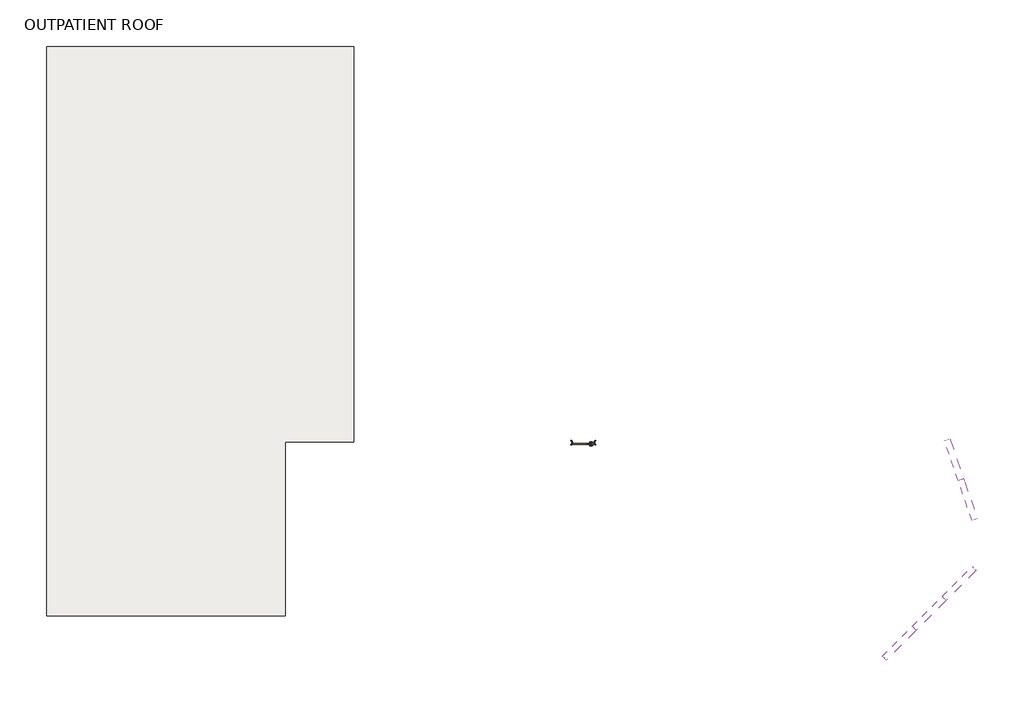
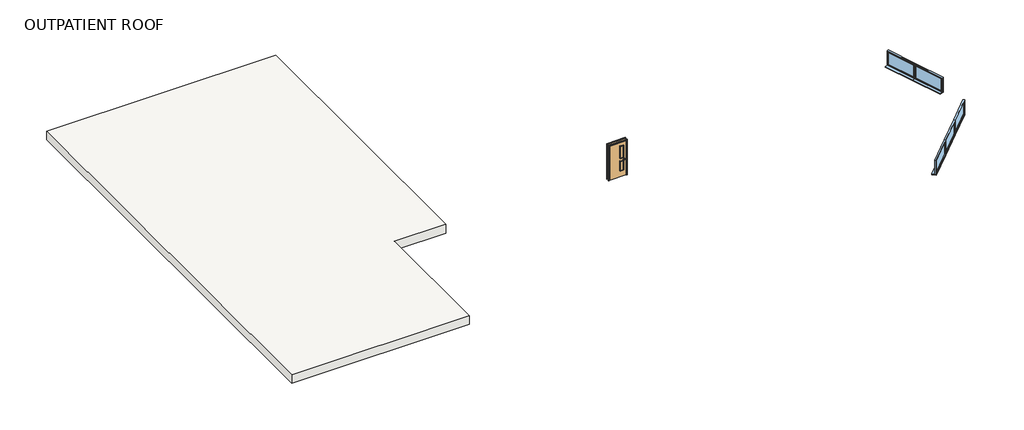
# One storey: 5 windows, 1 door, 1 roof.
"""IFC4 building model written with IfcOpenShell, lengths in millimetres."""

from ifc_helpers import new_model, si_unit, frame, origin, place, context, project, spatial, polyline, outline, extrude, transform, mapped, element, save
from components import doors_intsgl_3_1010x2110mm_4cc0f6b2, windows_concept_plain_sgl_1810x910mm_a9162c4a

model = new_model("IFC4")

# Units and contexts
model_context = context("Model", 3, world=origin())
ifc_project = project(units=[si_unit("LENGTHUNIT", "METRE", prefix="MILLI")], contexts=[model_context])

# Site, building, storey
site = spatial("IfcSite", under=ifc_project)
building = spatial("IfcBuilding", under=site)
storey = spatial("IfcBuildingStorey", under=building, Name="OUTPATIENT ROOF", Elevation=4500.0)

# Door
placement = place(None, origin())
doors_intsgl_3_1010x2110mm_shape = doors_intsgl_3_1010x2110mm_4cc0f6b2(model_context)
element("IfcDoor", 1, ObjectType="Doors_IntSgl_3 : 1010x2110mm", at=placement, inside=storey, context=model_context, shape_type="MappedRepresentation", body=[
    mapped(doors_intsgl_3_1010x2110mm_shape, transform((434827.3206883, -386774.0026386, 4500.0), x_axis=(-1.0, 0.0, 0.0), y_axis=(0.0, -1.0, 0.0), z_axis=(0.0, 0.0, 1.0))),
])

# Roof
element("IfcRoof", 2, ObjectType="Roof_Generic400mm", at=placement, inside=storey, context=model_context, shape_type="SweptSolid", body=[
    extrude(outline(polyline([(411860.3206883, -369815.0026386), (425012.3206883, -369815.0026386), (425012.3206883, -386739.0026386), (422066.3206883, -386739.0026386), (422066.3206883, -394194.0026386), (411860.3206883, -394194.0026386), (411860.3206883, -369815.0026386)])), frame((0.0, 0.0, 4500.0), z_axis=(0.0, 0.0, 1.0), x_axis=(1.0, 0.0, 0.0)), (0.0, 0.0, 1.0), 525.0),
])

# Windows
windows_concept_plain_sgl_1810x910mm_shape = windows_concept_plain_sgl_1810x910mm_a9162c4a(model_context)
element("IfcWindow", 3, ObjectType="Windows_Concept_Plain_Sgl : 1810x910mm", at=placement, inside=storey, context=model_context, shape_type="MappedRepresentation", body=[
    mapped(windows_concept_plain_sgl_1810x910mm_shape, transform((450759.7137274, -387480.6222263, 4500.0), x_axis=(-0.32556815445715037, 0.9455185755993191, 0.0), y_axis=(-0.9455185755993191, -0.32556815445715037, 0.0), z_axis=(0.0, 0.0, 1.0))),
])
element("IfcWindow", 4, ObjectType="Windows_Concept_Plain_Sgl : 1810x910mm", at=placement, inside=storey, context=model_context, shape_type="MappedRepresentation", body=[
    mapped(windows_concept_plain_sgl_1810x910mm_shape, transform((451348.992087, -389192.0108481, 4500.0), x_axis=(-0.32556815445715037, 0.9455185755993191, 0.0), y_axis=(-0.9455185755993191, -0.32556815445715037, 0.0), z_axis=(0.0, 0.0, 1.0))),
])
element("IfcWindow", 5, ObjectType="Windows_Concept_Plain_Sgl : 1810x910mm", at=placement, inside=storey, context=model_context, shape_type="MappedRepresentation", body=[
    mapped(windows_concept_plain_sgl_1810x910mm_shape, transform((450956.7104644, -392856.7017418, 4500.0), x_axis=(0.7071067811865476, 0.7071067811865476, 0.0), y_axis=(-0.7071067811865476, 0.7071067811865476, 0.0), z_axis=(0.0, 0.0, 1.0))),
])
element("IfcWindow", 6, ObjectType="Windows_Concept_Plain_Sgl : 1810x910mm", at=placement, inside=storey, context=model_context, shape_type="MappedRepresentation", body=[
    mapped(windows_concept_plain_sgl_1810x910mm_shape, transform((449676.8471904, -394136.5650158, 4500.0), x_axis=(0.7071067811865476, 0.7071067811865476, 0.0), y_axis=(-0.7071067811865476, 0.7071067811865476, 0.0), z_axis=(0.0, 0.0, 1.0))),
])
element("IfcWindow", 7, ObjectType="Windows_Concept_Plain_Sgl : 1810x910mm", at=placement, inside=storey, context=model_context, shape_type="MappedRepresentation", body=[
    mapped(windows_concept_plain_sgl_1810x910mm_shape, transform((448400.6861845, -395412.7260218, 4500.0), x_axis=(0.7071067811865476, 0.7071067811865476, 0.0), y_axis=(-0.7071067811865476, 0.7071067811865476, 0.0), z_axis=(0.0, 0.0, 1.0))),
])

save(model, "model.ifc")
